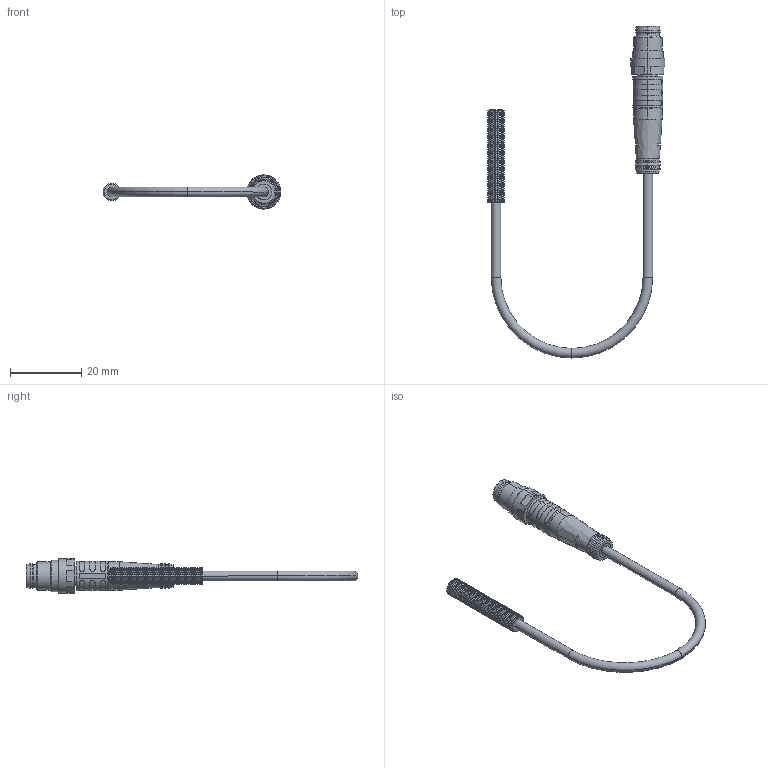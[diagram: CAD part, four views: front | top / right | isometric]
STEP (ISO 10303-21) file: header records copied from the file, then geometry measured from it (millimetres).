
FILE_DESCRIPTION(('FreeCAD Model'),'2;1');
FILE_NAME('Open CASCADE Shape Model','2024-10-02T07:30:43',( 'Thomas Reinhold'),('Eickmann Elektronik GmbH&.Co'), 'Open CASCADE STEP processor 7.6','FreeCAD','Unknown');
FILE_SCHEMA(('AUTOMOTIVE_DESIGN { 1 0 10303 214 1 1 1 1 }'));
Length unit declared in the file: millimetre
Products named in the file (4): Unnamed; 3; 4; 6
Assembly tree (3 placements, depth 2):
  Unnamed
    3
    4
    6
Bounding box: 50.02 x 93.4 x 9.6 mm (x, y, z)
Volume: 3048.3 mm3; surface area: 3141.3 mm2
Topology: 3 solids, 3 shells, 606 faces, 1311 edges, 717 vertices
Faces by surface type: cylinder 292, cone 230, plane 59, torus 20, sphere 3, bspline 2
Entity records: 17858 total; most frequent: CARTESIAN_POINT 4474, DIRECTION 3072, ORIENTED_EDGE 2610, EDGE_CURVE 1305, AXIS2_PLACEMENT_3D 1239, VERTEX_POINT 717, CIRCLE 631, FACE_BOUND 618
